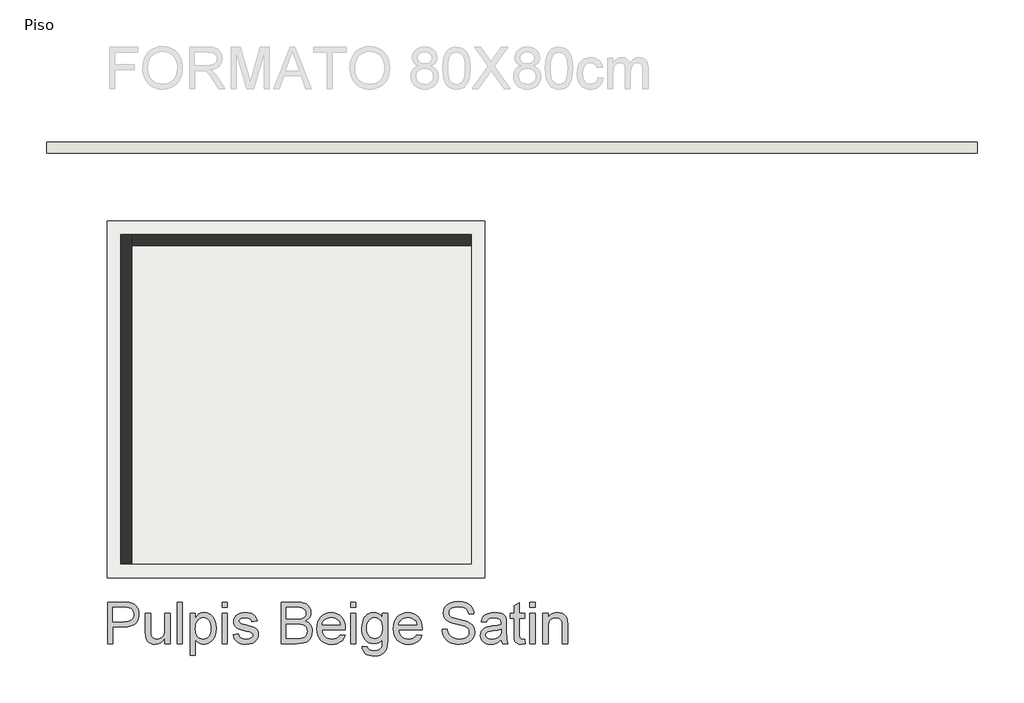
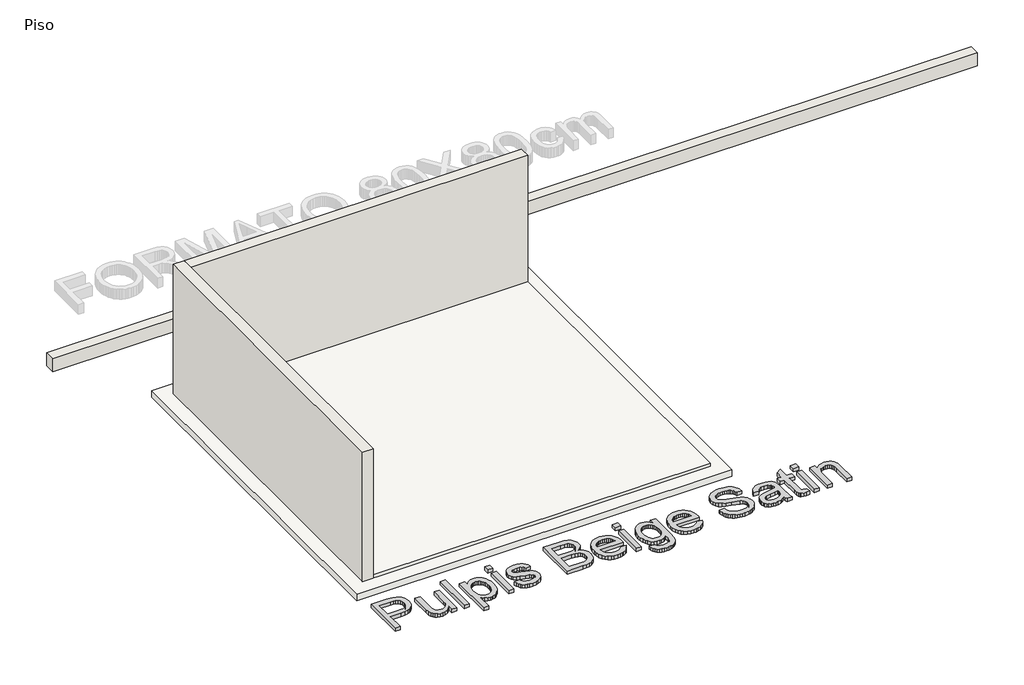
# One storey, part 1 of 2: 3 walls, 2 slabs, 1 proxy.
"""IFC4 building model written with IfcOpenShell, lengths in millimetres."""

import ifcopenshell
import ifcopenshell.guid

model = None  # the IFC model being written
_history = None  # IfcOwnerHistory: only IFC2X3 demands one
_inside = {}  # id of a spatial element -> (the spatial element, [elements in it])
_under = {}  # id of a project, library or spatial element -> (it, [spatial elements below it])
_declared = {}  # id of a project -> (the project, [libraries it declares])
_typed = {}  # id of a type object -> (the type object, [elements of that type])
_made_of = {}  # id of a material, layer set ... -> (it, [elements and type objects made of it])


def new_model(schema):
    """Start an empty IFC model of exactly this schema.

    Asked for "IFC4X3", IfcOpenShell would pick the latest addendum, in which some entities
    have other attributes; the version numbers below select the first issue.
    IFC2X3 requires an IfcOwnerHistory on every rooted entity: one is made here for all.
    """
    global model, _history
    if schema == "IFC4X3":
        model = ifcopenshell.file(schema_version=(4, 3, 0, 0))
    else:
        model = ifcopenshell.file(schema=schema)
    _inside.clear()
    _under.clear()
    _declared.clear()
    _typed.clear()
    _made_of.clear()
    _history = None
    if model.schema == "IFC2X3":
        org = make("IfcOrganization", Name="unknown")
        user = make(
            "IfcPersonAndOrganization",
            ThePerson=make("IfcPerson", FamilyName="unknown"),
            TheOrganization=org,
        )
        app = make(
            "IfcApplication",
            ApplicationDeveloper=org,
            Version="unknown",
            ApplicationFullName="unknown",
            ApplicationIdentifier="unknown",
        )
        _history = make(
            "IfcOwnerHistory",
            OwningUser=user,
            OwningApplication=app,
            ChangeAction="ADDED",
            CreationDate=0,
        )
    return model


def make(cls, **values):
    """One entity of the class cls with the attributes given. An attribute that is None is left unset."""
    return model.create_entity(
        cls, **{name: value for name, value in values.items() if value is not None}
    )


def rooted(cls, **values):
    """An entity with a GlobalId (a new one), such as an element, a storey or a relation."""
    return make(cls, GlobalId=ifcopenshell.guid.new(), OwnerHistory=_history, **values)


def si_unit(unit_type, name, prefix=None):
    """IfcSIUnit, for example si_unit("LENGTHUNIT", "METRE", prefix="MILLI")."""
    return make("IfcSIUnit", UnitType=unit_type, Prefix=prefix, Name=name)


def assignment(units):
    """IfcUnitAssignment: the units of a project."""
    return None if units is None else make("IfcUnitAssignment", Units=units)


def point(xyz):
    """IfcCartesianPoint."""
    return None if xyz is None else make("IfcCartesianPoint", Coordinates=xyz)


def direction(xyz):
    """IfcDirection."""
    return None if xyz is None else make("IfcDirection", DirectionRatios=xyz)


def frame(location, z_axis=None, x_axis=None):
    """IfcAxis2Placement3D, a coordinate frame: its origin and axes. An axis left out is left unset."""
    return make(
        "IfcAxis2Placement3D",
        Location=point(location),
        Axis=direction(z_axis),
        RefDirection=direction(x_axis),
    )


def origin():
    """The frame at (0, 0, 0) with its axes left unset."""
    return frame((0.0, 0.0, 0.0))


def origin_with_axes():
    """The frame at (0, 0, 0) with the z axis (0, 0, 1) and the x axis (1, 0, 0) written out."""
    return frame((0.0, 0.0, 0.0), z_axis=(0.0, 0.0, 1.0), x_axis=(1.0, 0.0, 0.0))


def place(relative_to, where):
    """IfcLocalPlacement: puts the frame where relative to a parent placement (None: the world)."""
    return make(
        "IfcLocalPlacement", PlacementRelTo=relative_to, RelativePlacement=where
    )


def context(
    kind, dimensions, precision=None, world=None, true_north=None, identifier=None
):
    """IfcGeometricRepresentationContext, for example the 3D "Model" context."""
    return make(
        "IfcGeometricRepresentationContext",
        ContextIdentifier=identifier,
        ContextType=kind,
        CoordinateSpaceDimension=dimensions,
        Precision=precision,
        WorldCoordinateSystem=world,
        TrueNorth=true_north,
    )


def project(units=None, contexts=None):
    """IfcProject with its units and contexts."""
    return rooted(
        "IfcProject",
        Name="project",
        RepresentationContexts=contexts,
        UnitsInContext=assignment(units),
    )


def spatial(cls, under=None, at=None, **own):
    """A site, building, storey or space (cls), placed at a placement, below another one or the project."""
    s = rooted(cls, ObjectPlacement=at, **own)
    if under is not None:
        _under.setdefault(under.id(), (under, []))[1].append(s)
    return s


def polyline(points):
    """IfcPolyline through the points."""
    return make("IfcPolyline", Points=[point(p) for p in points])


def outline(outer, holes=None, kind="AREA"):
    """IfcArbitraryClosedProfileDef: a profile drawn as a closed curve; with holes, ...WithVoids."""
    if holes is None:
        return make("IfcArbitraryClosedProfileDef", ProfileType=kind, OuterCurve=outer)
    return make(
        "IfcArbitraryProfileDefWithVoids",
        ProfileType=kind,
        OuterCurve=outer,
        InnerCurves=holes,
    )


def extrude(swept, where, along, depth):
    """IfcExtrudedAreaSolid: the profile swept, set in the frame where, extruded along a direction by depth."""
    return make(
        "IfcExtrudedAreaSolid",
        SweptArea=swept,
        Position=where,
        ExtrudedDirection=direction(along),
        Depth=depth,
    )


def faces_of(points, faces, orient=None, outer=None):
    """IfcFace entities. A face is a list of loops; a loop is a list of indices into points, from 0.

    orient and outer hold one flag for each loop. By default every Orientation is true, the
    first loop of a face is its IfcFaceOuterBound and the others are IfcFaceBound.
    """
    made = []
    for i, loops in enumerate(faces):
        bounds = []
        for j, loop in enumerate(loops):
            is_outer = j == 0 if outer is None else outer[i][j]
            bounds.append(
                make(
                    "IfcFaceOuterBound" if is_outer else "IfcFaceBound",
                    Bound=make("IfcPolyLoop", Polygon=[points[k] for k in loop]),
                    Orientation=True if orient is None else orient[i][j],
                )
            )
        made.append(make("IfcFace", Bounds=bounds))
    return made


def faceted_brep(points, faces, orient=None, outer=None, voids=None):
    """IfcFacetedBrep: a solid bounded by flat faces; with voids (closed shells), ...WithVoids."""
    shared = [point(p) for p in points]
    hull = make("IfcClosedShell", CfsFaces=faces_of(shared, faces, orient, outer))
    if voids is None:
        return make("IfcFacetedBrep", Outer=hull)
    return make(
        "IfcFacetedBrepWithVoids",
        Outer=hull,
        Voids=[
            make(cls, CfsFaces=faces_of(shared, fs, o, b)) for cls, fs, o, b in voids
        ],
    )


def shape(context_of_items, identifier, shape_type, items):
    """IfcShapeRepresentation: the items that make up one representation, for example the "Body"."""
    return make(
        "IfcShapeRepresentation",
        ContextOfItems=context_of_items,
        RepresentationIdentifier=identifier,
        RepresentationType=shape_type,
        Items=items,
    )


def made_of(thing, what):
    """Note that an element or type object is made of a material, layer set ...; save() writes the relation."""
    if what is not None:
        _made_of.setdefault(what.id(), (what, []))[1].append(thing)
    return thing


def element(
    cls,
    number,
    at=None,
    inside=None,
    cuts=None,
    type_object=None,
    material=None,
    context=None,
    identifier="Body",
    shape_type=None,
    held_by="IfcProductDefinitionShape",
    body=None,
    shapes=None,
    **own,
):
    """One element of the class cls, such as IfcWall. Its Tag is "e" and its number.

    at: its placement. inside: the storey or other place that contains it. cuts: it is an
    opening in that element (IfcRelVoidsElement). A single representation is given by context,
    identifier, shape_type and body (its items); several are given by shapes. held_by: the class
    of the entity that holds the representations. save() writes the other relations.
    """
    e = rooted(cls, Tag="e%d" % number, ObjectPlacement=at, **own)
    if body is not None:
        shapes = [shape(context, identifier, shape_type, body)]
    if shapes is not None:
        e.Representation = make(held_by, Representations=shapes)
    if inside is not None:
        _inside.setdefault(inside.id(), (inside, []))[1].append(e)
    if cuts is not None:
        rooted(
            "IfcRelVoidsElement", RelatingBuildingElement=cuts, RelatedOpeningElement=e
        )
    if type_object is not None:
        _typed.setdefault(type_object.id(), (type_object, []))[1].append(e)
    return made_of(e, material)


def aggregate(whole, parts):
    """IfcRelAggregates: a whole, such as a stair, and the parts it consists of."""
    return rooted("IfcRelAggregates", RelatingObject=whole, RelatedObjects=parts)


def save(model, path):
    """Write the relations noted so far, then the file.

    IfcRelAggregates (storeys below a building ...), IfcRelContainedInSpatialStructure (elements
    in a storey), IfcRelDefinesByType, IfcRelAssociatesMaterial and IfcRelDeclares: one each for
    every whole, place, type object, material and project.
    """
    for whole, parts in _under.values():
        aggregate(whole, parts)
    for where, things in _inside.values():
        rooted(
            "IfcRelContainedInSpatialStructure",
            RelatedElements=things,
            RelatingStructure=where,
        )
    for kind, things in _typed.values():
        rooted("IfcRelDefinesByType", RelatedObjects=things, RelatingType=kind)
    for what, things in _made_of.values():
        rooted("IfcRelAssociatesMaterial", RelatedObjects=things, RelatingMaterial=what)
    for by, libraries in _declared.values():
        rooted("IfcRelDeclares", RelatingContext=by, RelatedDefinitions=libraries)
    model.write(path)


model = new_model("IFC4")

# Units and contexts
model_context = context("Model", 3, world=origin())
ifc_project = project(units=[si_unit("LENGTHUNIT", "METRE", prefix="MILLI")], contexts=[model_context])

# Site, building, storey
site = spatial("IfcSite", under=ifc_project)
building = spatial("IfcBuilding", under=site)
storey = spatial("IfcBuildingStorey", under=building, Name="Piso", Elevation=0.0)

# Proxy
placement = place(None, origin())
element("IfcBuildingElementProxy", 1, Name="600mm Arial", ObjectType="600mm Arial", at=placement, inside=storey, context=model_context, shape_type="SweptSolid", body=[
    extrude(outline(polyline([(92573.8457532, -5351.3923207), (92573.8457532, -4748.6544598), (92797.2237006, -4748.6544598), (92849.2422148, -4750.0891996), (92887.2812131, -4754.3934189), (92927.4355328, -4765.1171791), (92960.4897301, -4782.5731798), (92987.1059925, -4807.5523672), (93007.9465075, -4840.8456878), (93021.4109885, -4880.1170908), (93025.8991488, -4923.0305255), (93022.8687209, -4960.0302572), (93013.7774371, -4994.0685388), (92998.6252974, -5025.1453703), (92977.4123019, -5053.2607518), (92948.2898434, -5076.5660762), (92909.4093151, -5093.2127365), (92860.7707168, -5103.2007327), (92802.3740486, -5106.5300647), (92649.1879858, -5106.5300647), (92649.1879858, -5351.3923207), (92573.8457532, -5351.3923207)]), holes=[polyline([(92649.1879858, -5031.1878321), (92806.7886325, -5031.1878321), (92843.025009, -5029.4587867), (92873.5960028, -5024.2716506), (92898.5016139, -5015.6264237), (92917.7418423, -5003.5231061), (92932.0984371, -4988.2835944), (92942.3531477, -4970.2297855), (92948.5059741, -4949.3616793), (92950.5569162, -4925.6792759), (92945.719268, -4891.8341323), (92931.2063233, -4863.2864895), (92908.8207039, -4841.802181), (92880.3650316, -4829.1470404), (92851.3023539, -4825.2842794), (92805.0227989, -4823.9966924), (92649.1879858, -4823.9966924), (92649.1879858, -5031.1878321)])]), origin_with_axes(), (0.0, 0.0, 1.0), 50.0),
    extrude(outline(polyline([(93402.6103119, -5351.3923207), (93402.6103119, -5275.3143241), (93375.3502561, -5312.718726), (93343.6020399, -5339.4361559), (93307.3656634, -5355.4666138), (93266.6411265, -5360.8100998), (93229.9448975, -5357.0577034), (93195.7870542, -5345.8005144), (93167.1290468, -5328.8779426), (93146.9323253, -5308.1293981), (93133.3390855, -5282.9294814), (93124.4915236, -5252.6527932), (93120.0769396, -5182.6080613), (93120.0769396, -4908.7567041), (93195.4191722, -4908.7567041), (93195.4191722, -5147.144237), (93196.5596064, -5194.8217436), (93199.980909, -5223.9579976), (93210.9621865, -5249.5809786), (93229.7793506, -5269.0603302), (93255.1816023, -5281.3659829), (93285.918143, -5285.4678672), (93318.4205173, -5281.2740124), (93348.8259642, -5268.6924482), (93373.8971222, -5248.8820028), (93390.3966297, -5223.0015044), (93399.5568914, -5187.5560742), (93402.6103119, -5139.0508331), (93402.6103119, -4908.7567041), (93477.9525445, -4908.7567041), (93477.9525445, -5351.3923207), (93402.6103119, -5351.3923207)])), origin_with_axes(), (0.0, 0.0, 1.0), 50.0),
    extrude(outline(polyline([(93581.5481144, -5351.3923207), (93581.5481144, -4748.6544598), (93656.890347, -4748.6544598), (93656.890347, -5351.3923207), (93581.5481144, -5351.3923207)])), origin_with_axes(), (0.0, 0.0, 1.0), 50.0),
    extrude(outline(polyline([(93769.9036959, -5520.9123441), (93769.9036959, -4908.7567041), (93845.2459285, -4908.7567041), (93845.2459285, -4982.6274088), (93869.8204458, -4946.1886971), (93897.338019, -4920.161046), (93929.417329, -4904.5444553), (93967.6770565, -4899.338925), (93993.953028, -4901.1599409), (94018.6287128, -4906.6229885), (94041.704111, -4915.7280679), (94063.1792224, -4928.4751791), (94082.5849977, -4944.5332282), (94099.4523872, -4963.5711214), (94113.7813909, -4985.5888588), (94125.5720088, -5010.5864404), (94141.3541464, -5066.0998335), (94146.614859, -5126.6899981), (94140.6735647, -5191.1245295), (94133.246947, -5220.7896139), (94122.8496821, -5248.7532441), (94109.6243243, -5274.2842545), (94093.713428, -5296.6514798), (94075.1169932, -5315.85492), (94053.8350198, -5331.894575), (94030.9113729, -5344.5451171), (94007.3899179, -5353.5812186), (93983.2706546, -5359.0028795), (93958.553583, -5360.8100998), (93923.9174932, -5355.9724516), (93892.9970115, -5341.4595068), (93866.5279019, -5319.552134), (93845.2459285, -5292.5312015), (93845.2459285, -5520.9123441), (93769.9036959, -5520.9123441)]), holes=[polyline([(93845.2459285, -5133.6061796), (93847.2830751, -5169.9161325), (93853.3945147, -5201.1493139), (93863.5802474, -5227.3057237), (93877.8402733, -5248.3853621), (93895.0065669, -5264.6089581), (93913.9111029, -5276.1972409), (93934.5538814, -5283.1502106), (93956.9349022, -5285.4678672), (93979.6378199, -5283.0674372), (94000.6576774, -5275.8661471), (94019.9944747, -5263.863997), (94037.648212, -5247.0609869), (94052.3588933, -5225.2179934), (94062.8665228, -5198.0958933), (94069.1711004, -5165.6946866), (94071.2726263, -5128.0143732), (94069.2216842, -5092.01712), (94063.0688579, -5060.8391209), (94052.8141472, -5034.480376), (94038.4575524, -5012.9408852), (94021.249872, -4996.2022544), (94002.441905, -4984.2460895), (93982.0336514, -4977.0723906), (93960.025111, -4974.6811577), (93938.0855485, -4977.2241419), (93917.4427701, -4984.8530948), (93898.0967756, -4997.5680163), (93880.0475653, -5015.3689063), (93864.8218492, -5038.0166417), (93853.9463377, -5065.272099), (93847.4210308, -5097.1352783), (93845.2459285, -5133.6061796)])]), origin_with_axes(), (0.0, 0.0, 1.0), 50.0),
    extrude(outline(polyline([(94231.3748706, -4823.9966924), (94231.3748706, -4748.6544598), (94306.7171033, -4748.6544598), (94306.7171033, -4823.9966924), (94231.3748706, -4823.9966924)])), origin_with_axes(), (0.0, 0.0, 1.0), 50.0),
    extrude(outline(polyline([(94231.3748706, -5351.3923207), (94231.3748706, -4908.7567041), (94306.7171033, -4908.7567041), (94306.7171033, -5351.3923207), (94231.3748706, -5351.3923207)])), origin_with_axes(), (0.0, 0.0, 1.0), 50.0),
    extrude(outline(polyline([(94391.4771149, -5219.5434136), (94466.8193476, -5210.1256346), (94471.3718872, -5227.3057237), (94478.701936, -5242.3520973), (94488.8094938, -5255.2647554), (94501.6945607, -5266.0436978), (94517.3939248, -5274.5417719), (94535.9443745, -5280.6118248), (94581.5985301, -5285.4678672), (94626.7008627, -5281.016495), (94644.2304397, -5275.4522799), (94658.4122906, -5267.6623786), (94677.1742724, -5248.3117857), (94681.8647678, -5237.4776609), (94683.4282663, -5225.870984), (94681.8555708, -5215.6990468), (94677.1374842, -5206.6675438), (94658.2651378, -5192.0258404), (94630.0485888, -5182.4609085), (94580.7156133, -5170.5415319), (94511.9584684, -5150.65751), (94467.260806, -5133.679756), (94438.5476162, -5115.1568975), (94417.7438894, -5090.6375625), (94405.1071429, -5061.6852495), (94400.894894, -5029.8634569), (94404.2794084, -5000.6720206), (94414.4329514, -4973.7246645), (94430.4358182, -4950.0882463), (94451.3683038, -4930.8296238), (94472.1720306, -4918.7079121), (94499.2665395, -4908.5359749), (94530.5916914, -4901.6381875), (94564.0873471, -4899.338925), (94613.126017, -4903.0361391), (94655.7635403, -4914.1277813), (94690.0501422, -4931.5285996), (94714.0360483, -4954.1533423), (94729.9285505, -4983.6758724), (94739.9349408, -5021.770053), (94664.5927082, -5031.1878321), (94655.0829586, -5007.4778375), (94636.2657945, -4989.6171667), (94607.957275, -4978.4151599), (94569.973459, -4974.6811577), (94526.7105364, -4978.249613), (94497.868588, -4988.9549791), (94481.644992, -5004.4060229), (94476.2371266, -5022.2115114), (94478.4812068, -5033.7997943), (94485.2134473, -5044.1372783), (94496.7281538, -5053.3711164), (94513.3196317, -5060.7655445), (94578.2140157, -5076.8051995), (94688.7993434, -5112.2690239), (94718.0091739, -5129.2283838), (94740.15567, -5152.4417377), (94754.1167917, -5181.9826619), (94758.7704989, -5217.9247329), (94753.3074513, -5255.0808144), (94736.9183084, -5290.0296039), (94710.2284697, -5320.0303806), (94673.8633344, -5342.3424236), (94629.9382242, -5356.1931808), (94580.5684605, -5360.8100998), (94540.0186675, -5358.5844137), (94504.6008285, -5351.9073555), (94474.3149432, -5340.7789252), (94449.1610118, -5325.1991227), (94428.6148024, -5305.2415244), (94412.1520831, -5280.9797068), (94399.7728539, -5252.4136699), (94391.4771149, -5219.5434136)])), origin_with_axes(), (0.0, 0.0, 1.0), 50.0),
    extrude(outline(polyline([(95088.3927666, -5351.3923207), (95088.3927666, -4748.6544598), (95318.39259, -4748.6544598), (95381.6498991, -4753.0874379), (95431.0380569, -4766.386372), (95451.1152168, -4776.443346), (95468.8931142, -4788.882356), (95484.3717492, -4803.7034019), (95497.5511216, -4820.9064837), (95515.5957335, -4858.5776), (95521.6106041, -4898.0145499), (95516.5522267, -4934.3061087), (95501.3770944, -4968.4271637), (95475.9748426, -4998.2807876), (95440.2351068, -5021.770053), (95462.9748126, -5031.4637436), (95482.9278123, -5044.0637019), (95500.0941059, -5059.569928), (95514.4736934, -5077.9824219), (95525.8366485, -5098.7401635), (95533.9530451, -5121.2821327), (95538.822883, -5145.6083297), (95540.4461623, -5171.7187543), (95536.0131842, -5213.7492722), (95522.7142501, -5252.7263696), (95502.8670165, -5285.8725374), (95478.7891399, -5310.4102665), (95449.303398, -5328.1789668), (95413.2325683, -5341.0180485), (95369.3994286, -5348.7987527), (95316.6267564, -5351.3923207), (95088.3927666, -5351.3923207)]), holes=[polyline([(95163.7349992, -5276.0500881), (95318.2454372, -5276.0500881), (95374.1635005, -5273.1070321), (95400.1175752, -5266.5771267), (95421.473125, -5256.6994952), (95438.8371552, -5242.5544324), (95452.816671, -5223.2222336), (95462.032115, -5199.5674213), (95465.1039297, -5172.4545183), (95461.4986861, -5140.9638195), (95450.6829555, -5113.8877046), (95431.792215, -5092.7160958), (95403.9619421, -5078.9389151), (95364.5433863, -5071.3789401), (95310.8877973, -5068.8589484), (95163.7349992, -5068.8589484), (95163.7349992, -5276.0500881)]), polyline([(95163.7349992, -4993.5167158), (95301.3228654, -4993.5167158), (95349.4418304, -4991.898035), (95381.6682932, -4987.0419927), (95409.7928717, -4975.8767741), (95430.0079873, -4959.1565375), (95442.2032755, -4937.1388), (95446.2683715, -4910.0810793), (95442.479187, -4883.8143048), (95431.1116333, -4860.9320447), (95412.6807454, -4843.0713739), (95387.7015579, -4831.8693671), (95349.368254, -4825.9648611), (95290.8750168, -4823.9966924), (95163.7349992, -4823.9966924), (95163.7349992, -4993.5167158)])]), origin_with_axes(), (0.0, 0.0, 1.0), 50.0),
    extrude(outline(polyline([(95944.5277458, -5219.5434136), (96018.3984504, -5228.9611927), (96007.0722835, -5258.5481022), (95991.7821881, -5284.6217386), (95972.5281641, -5307.1821019), (95949.3102117, -5326.2291922), (95922.3674541, -5341.3583393), (95891.9390146, -5352.1648729), (95858.0248931, -5358.6487931), (95820.6250898, -5360.8100998), (95773.8764853, -5357.0806961), (95732.2230464, -5345.8924849), (95695.6647731, -5327.2454663), (95664.2016655, -5301.1396402), (95638.9005812, -5268.3015736), (95620.8283782, -5229.4578334), (95609.9850564, -5184.6084197), (95606.3706158, -5133.7533324), (95610.0218446, -5081.1737982), (95620.975531, -5034.8298639), (95639.231675, -4994.7215293), (95664.7902767, -4960.8487946), (95696.1706108, -4933.9382267), (95731.8919526, -4914.7163924), (95771.9543018, -4903.1832919), (95816.3576587, -4899.338925), (95859.3308742, -4903.1740948), (95898.1930085, -4914.6796042), (95932.9440615, -4933.8554532), (95963.5840331, -4960.7016418), (95988.5954103, -4994.5008001), (96006.4606797, -5034.5355583), (96017.1798413, -5080.8059162), (96020.7528952, -5133.311874), (96020.3114368, -5153.6189601), (95681.7128484, -5153.6189601), (95686.0768486, -5183.6841162), (95694.7542652, -5210.01527), (95707.7450981, -5232.6124215), (95725.0493475, -5251.4755708), (95745.71052, -5266.3472005), (95768.7721226, -5276.9697931), (95794.2341552, -5283.3433487), (95822.0966178, -5285.4678672), (95862.1957553, -5281.5315298), (95895.9673224, -5269.7225178), (95923.4113193, -5249.3050671), (95944.5277458, -5219.5434136)]), holes=[polyline([(95681.7128484, -5078.2767275), (95945.4106626, -5078.2767275), (95935.2203313, -5038.4718956), (95926.4555428, -5022.8185167), (95915.244339, -5009.9978292), (95894.6981295, -4994.5467854), (95871.3192287, -4983.5103255), (95845.1076366, -4976.8884496), (95816.0633531, -4974.6811577), (95789.5712509, -4976.4423927), (95765.2772436, -4981.7260979), (95743.1813313, -4990.5322731), (95723.2835139, -5002.8609185), (95706.5862698, -5018.1418169), (95694.0920776, -5035.8047512), (95685.8009371, -5055.8497214), (95681.7128484, -5078.2767275)])]), origin_with_axes(), (0.0, 0.0, 1.0), 50.0),
    extrude(outline(polyline([(96096.0951278, -4823.9966924), (96096.0951278, -4748.6544598), (96171.4373604, -4748.6544598), (96171.4373604, -4823.9966924), (96096.0951278, -4823.9966924)])), origin_with_axes(), (0.0, 0.0, 1.0), 50.0),
    extrude(outline(polyline([(96096.0951278, -5351.3923207), (96096.0951278, -4908.7567041), (96171.4373604, -4908.7567041), (96171.4373604, -5351.3923207), (96096.0951278, -5351.3923207)])), origin_with_axes(), (0.0, 0.0, 1.0), 50.0),
    extrude(outline(polyline([(96265.6151512, -5389.063437), (96340.9573838, -5398.4812161), (96349.2715169, -5422.0256638), (96365.3847483, -5438.2124716), (96397.0593881, -5450.7940358), (96438.5196889, -5454.9878906), (96482.7391047, -5450.2422128), (96500.5997756, -5444.3101156), (96515.6277551, -5436.0051796), (96538.4364388, -5413.1964959), (96552.4159546, -5382.7358667), (96556.4994448, -5350.3254629), (96557.5663025, -5294.8856463), (96532.4951446, -5319.6073163), (96504.5177188, -5337.2656521), (96473.6340253, -5347.8606536), (96439.8440641, -5351.3923207), (96398.5355146, -5347.2812394), (96362.1657808, -5334.9479955), (96330.7348628, -5314.3925891), (96304.2427607, -5285.61502), (96283.2229032, -5251.0892947), (96268.2087192, -5213.2894197), (96259.2002089, -5172.215395), (96256.1973721, -5127.8672204), (96261.5868433, -5067.0379325), (96277.755257, -5011.1014752), (96289.739013, -4985.8785659), (96304.1323961, -4963.6998801), (96320.9354062, -4944.5654178), (96340.1480434, -4928.4751791), (96361.4622065, -4915.7280679), (96384.5697943, -4906.6229885), (96409.4708069, -4901.1599409), (96436.1652441, -4899.338925), (96471.3991422, -4903.4592034), (96503.3772847, -4915.8200384), (96532.0996714, -4936.4214302), (96557.5663025, -4965.2633786), (96557.5663025, -4908.7567041), (96632.9085352, -4908.7567041), (96632.9085352, -5290.9125207), (96627.7581872, -5379.1490173), (96621.3202523, -5411.9686897), (96612.3071434, -5437.2559784), (96600.5027299, -5457.6504365), (96585.6908811, -5475.7916174), (96567.8715969, -5491.6795211), (96547.0448775, -5505.3141475), (96523.4222549, -5516.2586369), (96497.2152612, -5524.0761293), (96468.4238966, -5528.7666247), (96437.0481609, -5530.3301232), (96400.1358012, -5528.1274297), (96366.9482467, -5521.5193494), (96337.4854975, -5510.5058822), (96311.7475534, -5495.087028), (96290.9576221, -5475.2443929), (96276.3389113, -5450.9595827), (96267.891421, -5422.2325974), (96265.6151512, -5389.063437)]), holes=[polyline([(96331.5396047, -5122.7168725), (96333.5491601, -5159.9695231), (96339.5778263, -5191.8235053), (96349.6256033, -5218.2788193), (96363.6924911, -5239.335465), (96380.7944053, -5255.3981126), (96399.9472617, -5266.8714323), (96421.1510602, -5273.7554242), (96444.4058008, -5276.0500881), (96467.4306152, -5273.7692197), (96488.5332462, -5266.9266146), (96507.7136937, -5255.5222728), (96524.9719578, -5239.5561942), (96539.2319836, -5218.7064821), (96549.4177164, -5192.6512398), (96555.529156, -5161.3904673), (96557.5663025, -5124.9241645), (96555.4693752, -5089.9799735), (96549.1785931, -5059.6067162), (96538.6939562, -5033.8043928), (96524.0154646, -5012.5730032), (96506.38472, -4995.9953208), (96487.0433241, -4984.154119), (96465.9912769, -4977.049398), (96443.2285784, -4974.6811577), (96420.8475576, -4977.0126098), (96400.2047791, -4984.0069662), (96381.3002431, -4995.664227), (96364.1339495, -5011.984392), (96349.8739236, -5032.8938849), (96339.6881909, -5058.3191293), (96333.5767513, -5088.2601251), (96331.5396047, -5122.7168725)])]), origin_with_axes(), (0.0, 0.0, 1.0), 50.0),
    extrude(outline(polyline([(97055.8256768, -5219.5434136), (97129.6963814, -5228.9611927), (97118.3702145, -5258.5481022), (97103.0801191, -5284.6217386), (97083.8260952, -5307.1821019), (97060.6081428, -5326.2291922), (97033.6653851, -5341.3583393), (97003.2369456, -5352.1648729), (96969.3228242, -5358.6487931), (96931.9230208, -5360.8100998), (96885.1744163, -5357.0806961), (96843.5209774, -5345.8924849), (96806.9627041, -5327.2454663), (96775.4995965, -5301.1396402), (96750.1985123, -5268.3015736), (96732.1263093, -5229.4578334), (96721.2829875, -5184.6084197), (96717.6685468, -5133.7533324), (96721.3197756, -5081.1737982), (96732.2734621, -5034.8298639), (96750.5296061, -4994.7215293), (96776.0882077, -4960.8487946), (96807.4685419, -4933.9382267), (96843.1898836, -4914.7163924), (96883.2522329, -4903.1832919), (96927.6555897, -4899.338925), (96970.6288053, -4903.1740948), (97009.4909395, -4914.6796042), (97044.2419925, -4933.8554532), (97074.8819642, -4960.7016418), (97099.8933413, -4994.5008001), (97117.7586107, -5034.5355583), (97128.4777723, -5080.8059162), (97132.0508262, -5133.311874), (97131.6093678, -5153.6189601), (96793.0107795, -5153.6189601), (96797.3747796, -5183.6841162), (96806.0521962, -5210.01527), (96819.0430291, -5232.6124215), (96836.3472785, -5251.4755708), (96857.008451, -5266.3472005), (96880.0700536, -5276.9697931), (96905.5320862, -5283.3433487), (96933.3945488, -5285.4678672), (96973.4936863, -5281.5315298), (97007.2652535, -5269.7225178), (97034.7092503, -5249.3050671), (97055.8256768, -5219.5434136)]), holes=[polyline([(96793.0107795, -5078.2767275), (97056.7085936, -5078.2767275), (97046.5182623, -5038.4718956), (97037.7534738, -5022.8185167), (97026.54227, -5009.9978292), (97005.9960606, -4994.5467854), (96982.6171598, -4983.5103255), (96956.4055676, -4976.8884496), (96927.3612841, -4974.6811577), (96900.8691819, -4976.4423927), (96876.5751747, -4981.7260979), (96854.4792623, -4990.5322731), (96834.5814449, -5002.8609185), (96817.8842009, -5018.1418169), (96805.3900086, -5035.8047512), (96797.0988681, -5055.8497214), (96793.0107795, -5078.2767275)])]), origin_with_axes(), (0.0, 0.0, 1.0), 50.0),
    extrude(outline(polyline([(97424.0019776, -5144.201181), (97499.3442102, -5144.201181), (97507.9894371, -5186.0109698), (97523.6244219, -5219.61699), (97548.0149982, -5246.2884347), (97582.9269995, -5267.2944966), (97625.6013109, -5280.9245245), (97673.2788175, -5285.4678672), (97715.2541532, -5282.0281705), (97752.0055645, -5271.7090806), (97781.785612, -5255.37512), (97802.8468562, -5233.8908115), (97815.3732382, -5209.2243237), (97819.5486988, -5183.3438253), (97816.4217018, -5158.1255146), (97807.040711, -5136.3285063), (97787.9844236, -5117.7320715), (97755.8315372, -5102.1154808), (97646.1291263, -5073.3471088), (97574.1162257, -5054.3092155), (97528.0390058, -5036.1910272), (97490.5334364, -5010.8439578), (97463.9539623, -4980.1258112), (97448.1166424, -4944.698775), (97442.8375357, -4905.225037), (97444.4700121, -4882.7888338), (97449.3674412, -4861.0975916), (97457.5298229, -4840.1513105), (97468.9571574, -4819.9499905), (97483.5206859, -4801.3167674), (97501.0916497, -4785.0747773), (97521.6700488, -4771.2240202), (97545.2558832, -4759.7644961), (97598.2676787, -4744.3686346), (97656.9448569, -4739.2366807), (97720.5148657, -4744.6077579), (97776.1386234, -4760.7209893), (97800.4740174, -4772.7231394), (97821.8295672, -4787.2452811), (97840.2052728, -4804.2874145), (97855.6011343, -4823.8495396), (97867.89759, -4845.3614393), (97876.9750782, -4868.2528965), (97882.833599, -4892.5239111), (97885.4731523, -4918.1744832), (97810.1309197, -4918.1744832), (97805.0909364, -4894.1333948), (97796.2985567, -4873.2193034), (97783.7537807, -4855.4322089), (97767.4566083, -4840.7721114), (97747.1035369, -4829.3125873), (97722.3910639, -4821.1272129), (97693.3191892, -4816.2159882), (97659.8879129, -4814.5789134), (97625.3897788, -4816.1975941), (97595.9132339, -4821.0536365), (97571.4582783, -4829.1470404), (97552.0249119, -4840.4778058), (97537.2176616, -4854.0986367), (97526.6410542, -4869.0622368), (97520.2950898, -4885.3686063), (97518.1797684, -4903.017745), (97519.6788875, -4918.2020743), (97524.1762449, -4931.970058), (97531.6718405, -4944.321696), (97542.1656744, -4955.2569883), (97558.683576, -4965.6128665), (97584.6928331, -4976.0791092), (97665.1854136, -4997.3426886), (97748.2531681, -5017.5394101), (97798.5058487, -5035.1609577), (97841.4560716, -5062.4945899), (97858.0613452, -5078.561836), (97871.4200601, -5096.2293689), (97881.6885663, -5115.4052179), (97889.0232136, -5135.9974125), (97894.8909314, -5181.4308389), (97893.2032728, -5204.9982793), (97888.1402968, -5227.8759408), (97879.7020035, -5250.0638237), (97867.888393, -5271.5619278), (97852.9063987, -5291.5379201), (97834.9629544, -5309.1594677), (97814.05806, -5324.4265705), (97790.1917156, -5337.3392285), (97764.0582984, -5347.6077347), (97736.3521856, -5354.942382), (97676.2218735, -5360.8100998), (97637.681636, -5359.2282072), (97602.4063511, -5354.4825295), (97570.396019, -5346.5730666), (97541.6506396, -5335.4998185), (97515.995469, -5321.2443912), (97493.2557632, -5303.7883905), (97473.4315222, -5283.1318165), (97456.522746, -5259.2746691), (97442.9019151, -5232.9895006), (97432.9415101, -5205.048863), (97426.6415309, -5175.4527565), (97424.0019776, -5144.201181)])), origin_with_axes(), (0.0, 0.0, 1.0), 50.0),
    extrude(outline(polyline([(98281.0198736, -5294.8856463), (98245.0226203, -5325.7509457), (98207.9585093, -5345.9476672), (98168.9814119, -5357.0944916), (98127.2451996, -5360.8100998), (98093.6989601, -5358.5752167), (98064.2821961, -5351.8705673), (98038.9949074, -5340.6961517), (98017.8370942, -5325.0519699), (98001.1306531, -5305.9313032), (97989.1974809, -5284.327433), (97982.0375775, -5260.2403594), (97979.6509431, -5233.6700823), (97983.2561867, -5202.4369009), (97994.0719173, -5174.073199), (98010.7553658, -5149.7929874), (98031.9637628, -5130.8102764), (98056.887768, -5116.4628786), (98084.7180409, -5106.0886063), (98149.9067305, -5094.7578409), (98226.9412203, -5082.8384642), (98280.5784152, -5068.8589484), (98281.0198736, -5052.0835294), (98275.8327374, -5018.4591151), (98269.3488173, -5006.0063095), (98260.271329, -4996.4597718), (98244.5811619, -4986.9316281), (98225.4696923, -4980.1258112), (98176.9828453, -4974.6811577), (98132.1012419, -4978.3047953), (98100.7576959, -4989.1757083), (98079.383752, -5009.2804593), (98064.4109548, -5040.6056112), (97989.0687222, -5031.1878321), (98002.1469271, -4989.9850487), (98021.663067, -4957.6114331), (98049.4381576, -4932.8529748), (98087.2932149, -4914.4956632), (98133.591164, -4903.1281096), (98186.69493, -4899.338925), (98237.6281922, -4902.6866512), (98278.0032412, -4912.7298297), (98308.4454763, -4927.8313856), (98329.5802969, -4946.354244), (98343.5966009, -4969.2548982), (98352.6832862, -4997.4898414), (98356.3621062, -5063.4142949), (98356.3621062, -5157.1506273), (98360.1880789, -5288.0430411), (98365.8534616, -5320.3982626), (98375.1976643, -5351.3923207), (98299.8554317, -5351.3923207), (98287.7889023, -5325.1991227), (98281.0198736, -5294.8856463)]), holes=[polyline([(98281.0198736, -5144.201181), (98230.399311, -5156.7459571), (98159.4716623, -5167.3041703), (98094.6508548, -5179.5178526), (98077.7834653, -5187.8687739), (98065.2938716, -5199.3834803), (98057.5683497, -5213.1790551), (98054.9931757, -5228.3725815), (98060.6033761, -5250.776595), (98077.4339774, -5269.1339066), (98105.1170976, -5281.384377), (98143.2848546, -5285.4678672), (98183.751874, -5280.9613127), (98219.510004, -5267.4416494), (98248.4991052, -5247.5208394), (98268.6590385, -5223.8108448), (98277.598571, -5199.3834803), (98280.5784152, -5165.5383368), (98281.0198736, -5144.201181)])]), origin_with_axes(), (0.0, 0.0, 1.0), 50.0),
    extrude(outline(polyline([(98620.0599203, -5288.5580759), (98629.4776994, -5353.5996127), (98573.1181777, -5360.8100998), (98536.9553776, -5357.6831028), (98509.9896273, -5348.302112), (98490.93334, -5333.8443495), (98478.4989286, -5315.487038), (98471.6563235, -5283.959551), (98469.3754551, -5229.9912623), (98469.3754551, -4984.0989367), (98412.8687806, -4984.0989367), (98412.8687806, -4908.7567041), (98469.3754551, -4908.7567041), (98469.3754551, -4801.1880087), (98544.7176877, -4756.8950165), (98544.7176877, -4908.7567041), (98620.0599203, -4908.7567041), (98620.0599203, -4984.0989367), (98544.7176877, -4984.0989367), (98544.7176877, -5227.7839703), (98548.6908132, -5266.632309), (98561.5666831, -5280.3910956), (98572.437596, -5284.1986743), (98587.2448463, -5285.4678672), (98620.0599203, -5288.5580759)])), origin_with_axes(), (0.0, 0.0, 1.0), 50.0),
    extrude(outline(polyline([(98695.4021529, -4823.9966924), (98695.4021529, -4748.6544598), (98770.7443855, -4748.6544598), (98770.7443855, -4823.9966924), (98695.4021529, -4823.9966924)])), origin_with_axes(), (0.0, 0.0, 1.0), 50.0),
    extrude(outline(polyline([(98695.4021529, -5351.3923207), (98695.4021529, -4908.7567041), (98770.7443855, -4908.7567041), (98770.7443855, -5351.3923207), (98695.4021529, -5351.3923207)])), origin_with_axes(), (0.0, 0.0, 1.0), 50.0),
    extrude(outline(polyline([(98883.7577344, -5351.3923207), (98883.7577344, -4908.7567041), (98959.0999671, -4908.7567041), (98959.0999671, -4970.5608793), (98985.274771, -4939.4012743), (99016.7102875, -4917.1444136), (99053.4065165, -4903.7902972), (99095.3634581, -4899.338925), (99132.5011455, -4902.9257745), (99166.5118359, -4913.6863229), (99194.8755378, -4930.2778008), (99215.0722593, -4951.3574392), (99228.7758636, -4976.8700555), (99237.6602138, -5006.7604676), (99241.6333394, -5079.6011027), (99241.6333394, -5351.3923207), (99166.2911067, -5351.3923207), (99166.2911067, -5089.7546457), (99164.120603, -5050.7959425), (99157.6090917, -5023.0944282), (99145.5977445, -5003.2471946), (99126.9277333, -4987.8513331), (99102.9970095, -4977.9737015), (99075.2035247, -4974.6811577), (99052.3258632, -4976.5297647), (99031.0760794, -4982.0755858), (99011.4541735, -4991.3186209), (98993.4601454, -5004.2588701), (98978.4275674, -5022.3678613), (98967.6900116, -5047.1171225), (98961.2474782, -5078.5066537), (98959.0999671, -5116.536455), (98959.0999671, -5351.3923207), (98883.7577344, -5351.3923207)])), origin_with_axes(), (0.0, 0.0, 1.0), 50.0),
])

# Slabs
element("IfcSlab", 2, ObjectType="5cm - Porcelanato Pulpis Beige Satin  - Acetinado 80x80", at=placement, inside=storey, context=model_context, shape_type="SweptSolid", body=[
    extrude(outline(polyline([(97843.5359801, 424.7413105), (97843.5359801, -4195.8586895), (92922.9359801, -4195.8586895), (92922.9359801, 424.7413105), (97843.5359801, 424.7413105)])), origin_with_axes(), (0.0, 0.0, 1.0), 50.0),
])
element("IfcSlab", 3, ObjectType="CO02 - Concreto Estrutural Simples", at=placement, inside=storey, context=model_context, shape_type="SweptSolid", body=[
    extrude(outline(polyline([(98043.5359801, 783.5413105), (98043.5359801, -4395.8586895), (92564.1359801, -4395.8586895), (92564.1359801, 783.5413105), (98043.5359801, 783.5413105)])), frame((0.0, 0.0, -100.0), z_axis=(0.0, 0.0, 1.0), x_axis=(1.0, 0.0, 0.0)), (0.0, 0.0, 1.0), 100.0),
])

# Walls
element("IfcWall", 4, ObjectType="CO01 - Bloco de Concreto 14cm / Pintura Branca Simples", at=placement, inside=storey, context=model_context, shape_type="SweptSolid", body=[
    extrude(outline(polyline([(105186.699165, 1765.7486968), (91686.699165, 1765.7486968), (91686.699165, 1924.5486968), (105186.699165, 1924.5486968), (105186.699165, 1765.7486968)])), origin_with_axes(), (0.0, 0.0, 1.0), 200.0),
])
element("IfcWall", 5, ObjectType="CO01 - Bloco de Concreto 14cm / Pintura Branca Simples", at=placement, inside=storey, context=model_context, shape_type="Brep", body=[
    faceted_brep([(92922.9359801, -4195.8586895, 0.0), (92922.9359801, 424.7413105, 0.0), (92922.9359801, 583.5413105, 0.0), (92922.9359801, 583.5413105, 2000.0), (92922.9359801, 424.7413105, 2000.0), (92922.9359801, -4195.8586895, 2000.0), (92764.1359801, -4195.8586895, 0.0), (92764.1359801, -4195.8586895, 2000.0), (92764.1359801, 583.5413105, 2000.0), (92764.1359801, 583.5413105, 0.0)], [[[0, 1, 2, 3, 4, 5]], [[6, 7, 8, 9]], [[2, 1, 0, 6, 9]], [[5, 4, 3, 8, 7]], [[0, 5, 7, 6]], [[3, 2, 9, 8]]]),
])
element("IfcWall", 6, ObjectType="CO01 - Bloco de Concreto 14cm / Pintura Branca Simples", at=placement, inside=storey, context=model_context, shape_type="SweptSolid", body=[
    extrude(outline(polyline([(97843.5359801, 424.7413105), (92922.9359801, 424.7413105), (92922.9359801, 583.5413105), (97843.5359801, 583.5413105), (97843.5359801, 424.7413105)])), origin_with_axes(), (0.0, 0.0, 1.0), 2000.0),
])

save(model, "model.ifc")
